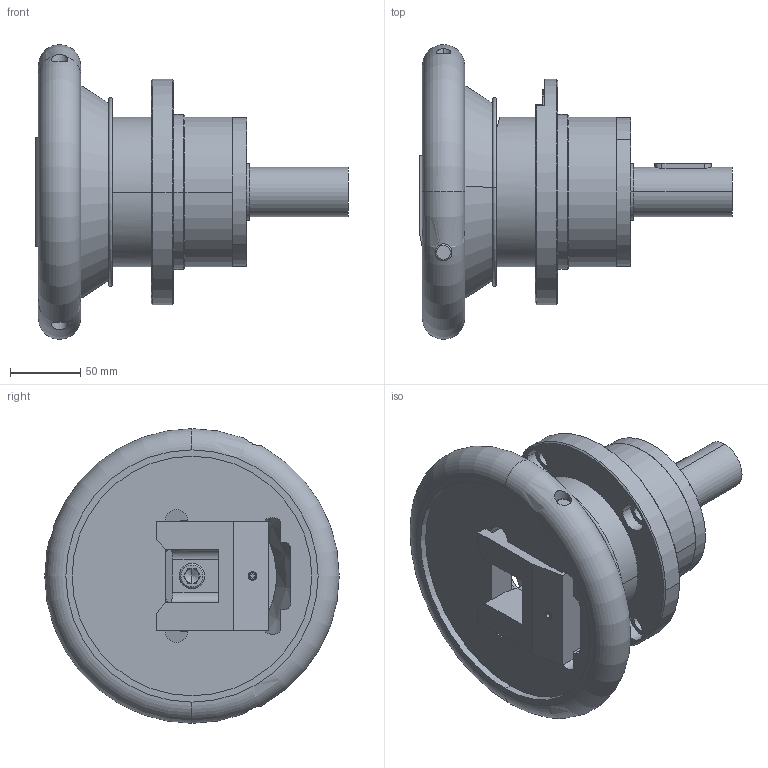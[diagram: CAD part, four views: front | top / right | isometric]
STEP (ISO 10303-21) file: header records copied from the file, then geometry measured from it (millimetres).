
FILE_DESCRIPTION (( 'STEP AP203' ), '1' );
FILE_NAME ('FLW38.STEP', '2009-09-22T00:53:27', ( 'ZiyouXP' ), ( 'W.X.C.Z' ), 'SwSTEP 2.0', 'SolidWorks 2009', '' );
FILE_SCHEMA (( 'CONFIG_CONTROL_DESIGN' ));
Length unit declared in the file: millimetre
Products named in the file (15): 鋼珠; Socket Set Screw Flat Point_AMM6_B18.3.6M - M6 x 1.0 x 10 Hex Socket Flat Pt. SS --C; 後蓋38; Flat Head Screw_AM_B18.6.7M - M6 x 1.0 x 16 Type I Cross Recessed FHMS --16S; FL座; FLW38; 軸心38; Basic External Retaining Ring_amR40_B27.7M - 3AM1-40; 35-1FL-SP; Socket Head Cap Screw_AMM12_B18.3.1M - 12 x 1.75 x 20 Hex SHCS -- 20NHX; Radial Ball Bearing_68_SKF6208_SKF - 6208 - 12,DE,AC,12_68; 圓盤38; 38DP; Basic Internal Retaining Ring_amR82_B27.7M - 3BM1-82; 零件4
Assembly tree (18 placements, depth 2):
  FLW38
    Flat Head Screw_AM_B18.6.7M - M6 x 1.0 x 16 Type I Cross Recessed FHMS --16S  x4
    Basic Internal Retaining Ring_amR82_B27.7M - 3BM1-82
    圓盤38
    35-1FL-SP
    Basic External Retaining Ring_amR40_B27.7M - 3AM1-40
    Socket Head Cap Screw_AMM12_B18.3.1M - 12 x 1.75 x 20 Hex SHCS -- 20NHX
    38DP
    軸心38
    後蓋38
    FL座
    零件4
    鋼珠
    Socket Set Screw Flat Point_AMM6_B18.3.6M - M6 x 1.0 x 10 Hex Socket Flat Pt. SS --C
    Radial Ball Bearing_68_SKF6208_SKF - 6208 - 12,DE,AC,12_68  x2
Bounding box: 222 x 208.95 x 209 mm (x, y, z)
Volume: 1778012.8 mm3; surface area: 368737.8 mm2
Topology: 18 solids, 18 shells, 1116 faces, 3093 edges, 1988 vertices
Faces by surface type: cylinder 300, plane 275, cone 245, sphere 196, torus 100
Entity records: 27463 total; most frequent: CARTESIAN_POINT 9276, DIRECTION 3527, ORIENTED_EDGE 3480, EDGE_CURVE 1740, AXIS2_PLACEMENT_3D 1456, VERTEX_POINT 1133, CIRCLE 788, EDGE_LOOP 749
